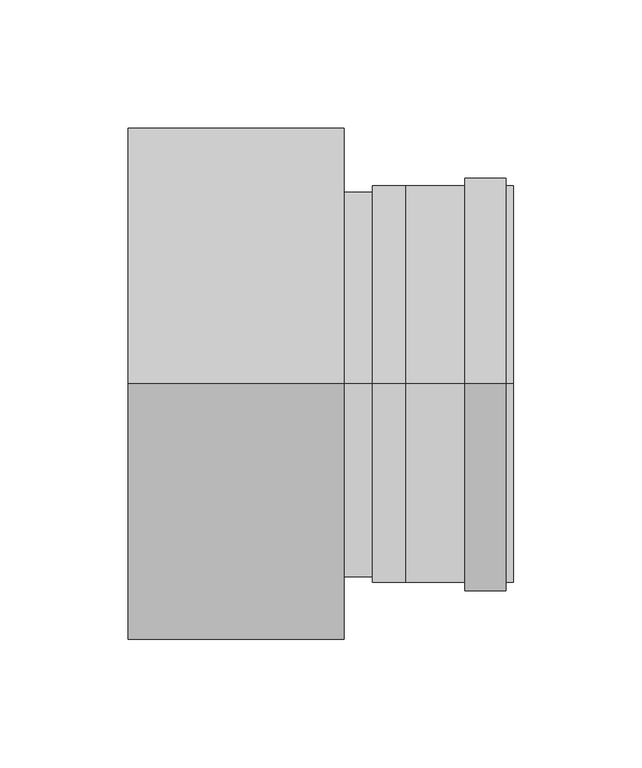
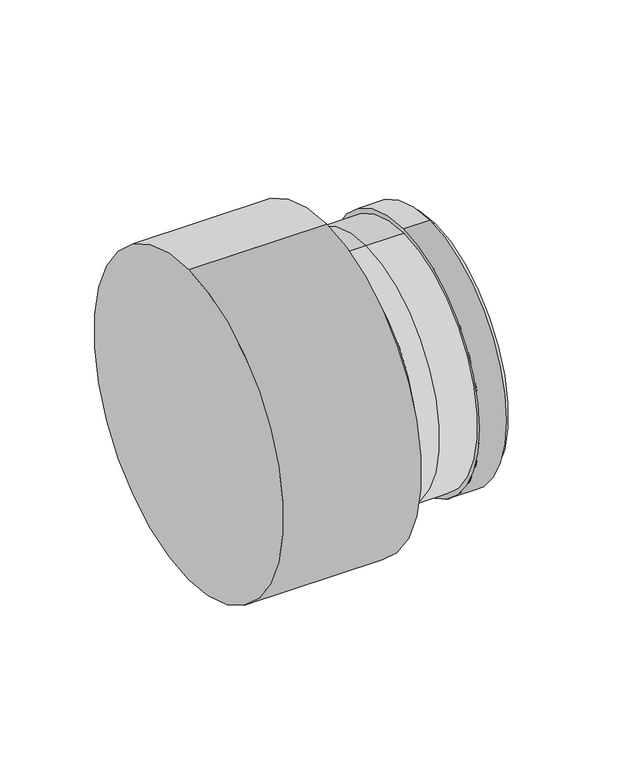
"""IFC4 building model written with IfcOpenShell, lengths in millimetres: duct fitting geometry, RSFen_DUF_UN_Twinline Reducer_M&G : ø080-100-150-200."""

from ifc_helpers import new_model, si_unit, point, frame, origin, origin_2d, place, context, project, spatial, polyline, circle_curve, trimmed, segment, composite_curve, outline, extrude, source, transform, mapped, element, save
from ifc_brep_helpers import plane_surface, cylinder_surface, revolved_surface, advanced_brep


def duct_fitting_84fb14a7(model_context):
    return source(origin(), model_context, "Body", "SolidModel", [
        advanced_brep(
        [(84.0, 0.0, 75.0), (84.0, 0.0, -75.0), (95.0, 0.0, -75.0), (95.0, 0.0, 75.0), (108.0, 0.0, 76.0), (108.0, 0.0, -76.0), (95.0, 0.0, 77.5), (95.0, 0.0, -77.5), (108.0, 0.0, -77.5), (108.0, 0.0, 77.5), (150.0, 0.0, 77.5), (150.0, 0.0, -77.5), (150.0, 0.0, -76.0), (150.0, 0.0, 76.0)],
        [
            (0, 1, circle_curve(frame((84.0, 0.0, 0.0), z_axis=(-1.0, 0.0, 0.0), x_axis=(0.0, 0.0, -1.0)), 75.0)),
            (1, 0, circle_curve(frame((84.0, 0.0, 0.0), z_axis=(-1.0, 0.0, 0.0), x_axis=(0.0, 0.0, -1.0)), 75.0)),
            (1, 2),
            (2, 3, circle_curve(frame((95.0, 0.0, 0.0), z_axis=(-1.0, 0.0, 0.0), x_axis=(0.0, 0.0, -1.0)), 75.0)),
            (3, 0),
            (3, 2, circle_curve(frame((95.0, 0.0, 0.0), z_axis=(-1.0, 0.0, 0.0), x_axis=(0.0, 0.0, -1.0)), 75.0)),
            (4, 5, circle_curve(frame((108.0, 0.0, 0.0), z_axis=(1.0, 0.0, 0.0), x_axis=(0.0, 0.0, 1.0)), 76.0)),
            (5, 4, circle_curve(frame((108.0, 0.0, 0.0), z_axis=(1.0, 0.0, 0.0), x_axis=(0.0, 0.0, 1.0)), 76.0)),
            (6, 7, circle_curve(frame((95.0, 0.0, 0.0), z_axis=(1.0, 0.0, 0.0), x_axis=(0.0, 0.0, -1.0)), 77.5)),
            (7, 8),
            (8, 9, circle_curve(frame((108.0, 0.0, 0.0), z_axis=(-1.0, 0.0, 0.0), x_axis=(0.0, 0.0, -1.0)), 77.5)),
            (9, 6),
            (7, 6, circle_curve(frame((95.0, 0.0, 0.0), z_axis=(1.0, 0.0, 0.0), x_axis=(0.0, 0.0, -1.0)), 77.5)),
            (9, 8, circle_curve(frame((108.0, 0.0, 0.0), z_axis=(-1.0, 0.0, 0.0), x_axis=(0.0, 0.0, -1.0)), 77.5)),
            (10, 11, circle_curve(frame((150.0, 0.0, 0.0), z_axis=(1.0, 0.0, 0.0), x_axis=(0.0, 0.0, -1.0)), 77.5)),
            (11, 10, circle_curve(frame((150.0, 0.0, 0.0), z_axis=(1.0, 0.0, 0.0), x_axis=(0.0, 0.0, -1.0)), 77.5)),
            (12, 13, circle_curve(frame((150.0, 0.0, 0.0), z_axis=(-1.0, 0.0, 0.0), x_axis=(0.0, 0.0, 1.0)), 76.0)),
            (13, 12, circle_curve(frame((150.0, 0.0, 0.0), z_axis=(-1.0, 0.0, 0.0), x_axis=(0.0, 0.0, 1.0)), 76.0)),
            (10, 9),
            (8, 11),
            (12, 5),
            (4, 13),
        ],
        [
            plane_surface(frame((84.0, 0.0, -75.0), z_axis=(-1.0, 0.0, 0.0), x_axis=(0.0, -1.0, 0.0))),
            cylinder_surface(frame((84.0, 0.0, 0.0), z_axis=(1.0, 0.0, 0.0), x_axis=(0.0, 0.0, -1.0)), 75.0),
            plane_surface(frame((108.0, 0.0, -77.5), z_axis=(1.0, 0.0, 0.0), x_axis=(0.0, 1.0, 0.0))),
            cylinder_surface(frame((95.0, 0.0, 0.0), z_axis=(1.0, 0.0, 0.0), x_axis=(0.0, 0.0, -1.0)), 77.5),
            plane_surface(frame((150.0, 0.0, -77.5), z_axis=(1.0, 0.0, 0.0), x_axis=(0.0, 1.0, 0.0))),
            cylinder_surface(frame((108.0, 0.0, 0.0), z_axis=(1.0, 0.0, 0.0), x_axis=(0.0, 0.0, -1.0)), 77.5),
            revolved_surface(polyline([(108.0, 0.0, 76.0), (150.0, 0.0, 76.0)]), (158.0, 0.0, 0.0), (-1.0, 0.0, 0.0)),
            plane_surface(frame((95.0, 0.0, -77.5), z_axis=(-1.0, 0.0, 0.0), x_axis=(0.0, -1.0, 0.0))),
        ],
        [
            (0, [[1, 2]]),
            (1, [[-2, 3, 4, 5]]),
            (1, [[-1, -5, 6, -3]]),
            (2, [[7, 8]]),
            (3, [[9, 10, 11, 12]]),
            (3, [[13, -12, 14, -10]]),
            (4, [[15, 16], [17, 18]]),
            (5, [[-15, 19, -11, 20]]),
            (5, [[-16, -20, -14, -19]]),
            (6, [[21, -7, 22, -17]]),
            (6, [[-21, -18, -22, -8]]),
            (7, [[-13, -9], [-4, -6]]),
        ],
    ),
        extrude(outline(composite_curve([segment(trimmed(circle_curve(origin_2d(), 80.5), [point((0.0, 80.5))], [point((0.0, -80.5))], False, "CARTESIAN"), True, "CONTINUOUS"), segment(trimmed(circle_curve(origin_2d(), 80.5), [point((0.0, -80.5))], [point((0.0, 80.5))], False, "CARTESIAN"), True, "CONTINUOUS")], self_intersect=False), holes=[composite_curve([segment(trimmed(circle_curve(origin_2d(), 77.5), [point((0.0, -77.5))], [point((0.0, 77.5))], True, "CARTESIAN"), True, "CONTINUOUS"), segment(trimmed(circle_curve(origin_2d(), 77.5), [point((0.0, 77.5))], [point((0.0, -77.5))], True, "CARTESIAN"), True, "CONTINUOUS")], self_intersect=False)]), frame((131.0, 0.0, 0.0), z_axis=(1.0, 0.0, 0.0), x_axis=(0.0, 1.0, 0.0)), (0.0, 0.0, 1.0), 16.0),
        extrude(outline(composite_curve([segment(trimmed(circle_curve(origin_2d(), 100.0), [point((0.0, -100.0))], [point((0.0, 100.0))], False, "CARTESIAN"), True, "CONTINUOUS"), segment(trimmed(circle_curve(origin_2d(), 100.0), [point((0.0, 100.0))], [point((0.0, -100.0))], False, "CARTESIAN"), True, "CONTINUOUS")], self_intersect=False)), frame((0.0, 0.0, 0.0), z_axis=(1.0, 0.0, 0.0), x_axis=(0.0, 1.0, 0.0)), (0.0, 0.0, 1.0), 84.0),
    ])


if __name__ == "__main__":
    model = new_model("IFC4")
    model_context = context("Model", 3, world=origin())
    ifc_project = project(units=[si_unit("LENGTHUNIT", "METRE", prefix="MILLI")], contexts=[model_context])
    site = spatial("IfcSite", under=ifc_project)
    building = spatial("IfcBuilding", under=site)
    placement = place(None, origin())
    duct_fitting_shape = duct_fitting_84fb14a7(model_context)
    element("IfcDuctFitting", 1, ObjectType="RSFen_DUF_UN_Twinline Reducer_M&G : ø080-100-150-200", at=placement, inside=building, context=model_context, shape_type="MappedRepresentation", body=[
        mapped(duct_fitting_shape, transform((0.0, 0.0, 0.0), x_axis=(1.0, 0.0, 0.0), y_axis=(0.0, 1.0, 0.0), z_axis=(0.0, 0.0, 1.0))),
    ])
    save(model, "model.ifc")
